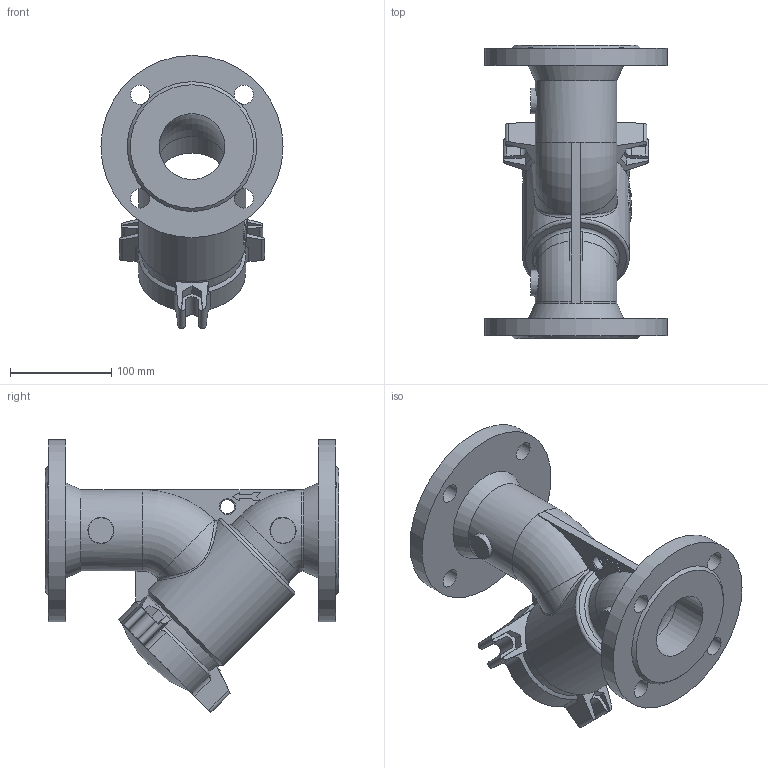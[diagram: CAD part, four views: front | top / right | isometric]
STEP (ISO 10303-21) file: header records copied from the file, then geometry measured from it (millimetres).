
FILE_DESCRIPTION(('STEP AP203'), '1');
FILE_NAME('Ôèëüòð ñåò÷àòûé ôëàíöåâûé 021Y.M DN65 PN10_PN16', '', ('UNSPECIFIED'), ('UNSPECIFIED'), 'ASCON STEP Converter 1.6', 'ASCON Math Kernel', '');
FILE_SCHEMA(('CONFIG_CONTROL_DESIGN'));
Length unit declared in the file: millimetre
Bounding box: 180 x 290 x 269.89 mm (x, y, z)
Volume: 1762010.5 mm3; surface area: 318536.6 mm2
Topology: 1 solids, 1 shells, 174 faces, 484 edges, 317 vertices
Faces by surface type: plane 84, cylinder 53, cone 14, bspline 11, torus 11, sphere 1
Full cylindrical faces by diameter (mm): 14 x1, 19 x8, 65 x4, 78 x2, 81 x1, 90 x1, 180 x2
Entity records: 12084 total; most frequent: CARTESIAN_POINT 6404, ORIENTED_EDGE 900, DIRECTION 815, EDGE_CURVE 450, VERTEX_POINT 313, AXIS2_PLACEMENT_3D 307, EDGE_LOOP 229, LINE 201
